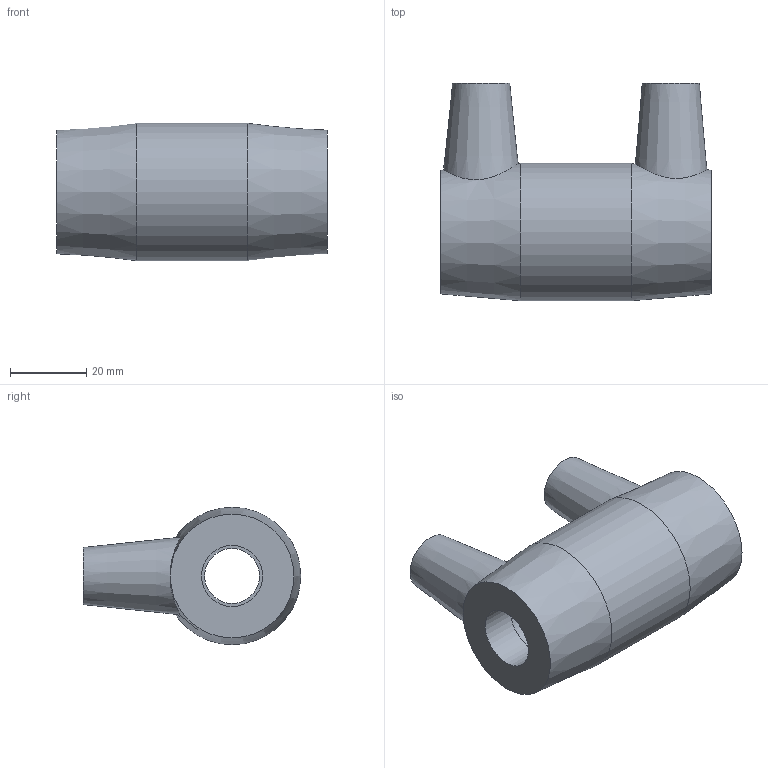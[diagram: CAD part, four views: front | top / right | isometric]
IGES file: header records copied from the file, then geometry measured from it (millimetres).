
Global section: file name: 491104020016.ipt; native system: Autodesk Inventor 2015; preprocessor: unknown; author: KIM; date: 20171106.093713; units: millimetre
Bounding box: 71 x 57 x 36 mm (x, y, z)
Volume: 58292.3 mm3; surface area: 16725.8 mm2
Topology: 1 solids, 1 shells, 29 faces, 68 edges, 49 vertices
Faces by surface type: plane 12, revolution 10, cone 4, cylinder 3
Full cylindrical faces by diameter (mm): 4 x2, 36 x1
